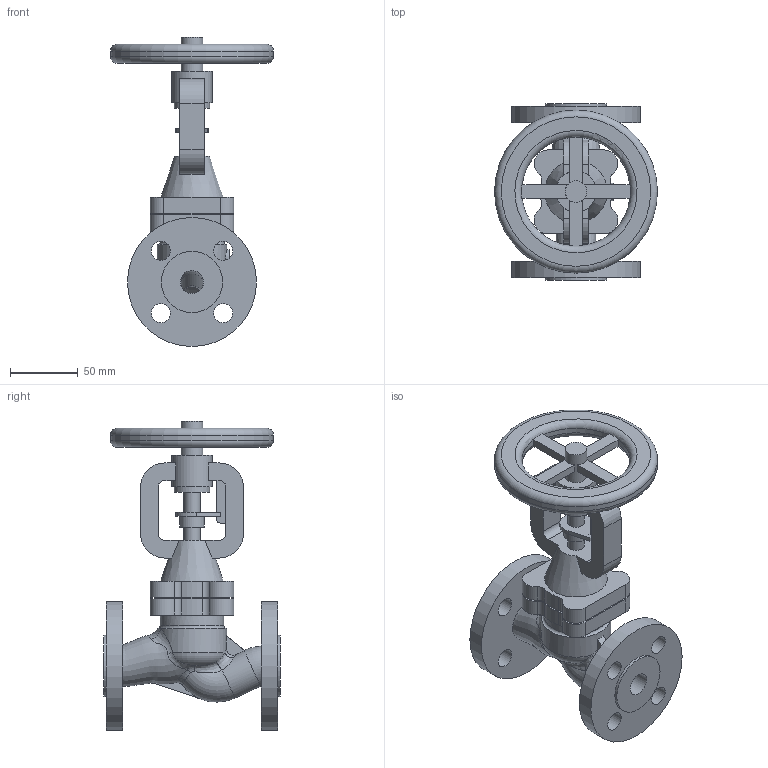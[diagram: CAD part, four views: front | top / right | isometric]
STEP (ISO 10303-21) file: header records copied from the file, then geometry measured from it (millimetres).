
FILE_DESCRIPTION(('STEP AP203'), '1');
FILE_NAME('孰囡囗 玎镱痦 BV1F DN15', '', ('UNSPECIFIED'), ('UNSPECIFIED'), 'ASCON STEP Converter 1.6', 'ASCON Math Kernel', '');
FILE_SCHEMA(('CONFIG_CONTROL_DESIGN'));
Length unit declared in the file: millimetre
Bounding box: 120 x 130 x 227.5 mm (x, y, z)
Volume: 547139.7 mm3; surface area: 115465 mm2
Topology: 1 solids, 2 shells, 194 faces, 539 edges, 364 vertices
Faces by surface type: plane 88, cylinder 69, bspline 23, torus 13, cone 1
Full cylindrical faces by diameter (mm): 12 x2, 14 x8, 16 x1, 17 x3, 18 x1, 26 x1, 30 x1, 43 x1, 45 x2, 47 x1, 95 x2, 120 x1
Entity records: 43447 total; most frequent: CARTESIAN_POINT 37062, ORIENTED_EDGE 1004, DIRECTION 928, EDGE_CURVE 502, AXIS2_PLACEMENT_3D 374, VERTEX_POINT 364, EDGE_LOOP 274, FACE_BOUND 237
